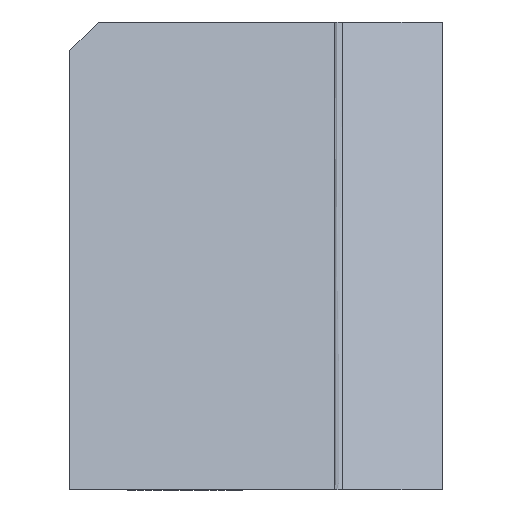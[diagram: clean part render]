
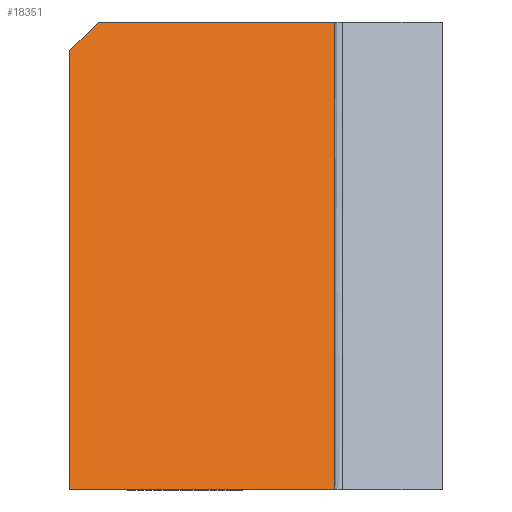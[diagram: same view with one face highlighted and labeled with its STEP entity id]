
A CAD part, left-side view. The second image highlights one B-rep face of the part: STEP entity #18351.
In plain terms, the highlighted planar face has unit normal (-0.943, 0, 0.334).
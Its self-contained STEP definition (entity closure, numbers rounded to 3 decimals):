
#1685=ORIENTED_EDGE('',*,*,#5631,.F.);
#1686=ORIENTED_EDGE('',*,*,#5632,.T.);
#1687=ORIENTED_EDGE('',*,*,#4766,.F.);
#1688=ORIENTED_EDGE('',*,*,#5633,.F.);
#1689=ORIENTED_EDGE('',*,*,#5268,.F.);
#4766=EDGE_CURVE('',#6739,#6740,#8030,.T.);
#5268=EDGE_CURVE('',#7240,#7242,#8371,.T.);
#5631=EDGE_CURVE('',#7604,#7240,#8614,.T.);
#5632=EDGE_CURVE('',#7604,#6740,#8615,.T.);
#5633=EDGE_CURVE('',#7242,#6739,#8616,.T.);
#6739=VERTEX_POINT('',#23909);
#6740=VERTEX_POINT('',#23910);
#7240=VERTEX_POINT('',#25427);
#7242=VERTEX_POINT('',#25430);
#7604=VERTEX_POINT('',#26156);
#8030=LINE('',#23908,#9565);
#8371=LINE('',#25429,#9906);
#8614=LINE('',#26155,#10149);
#8615=LINE('',#26157,#10150);
#8616=LINE('',#26158,#10151);
#9565=VECTOR('',#20031,1000.);
#9906=VECTOR('',#20634,1000.);
#10149=VECTOR('',#21119,1000.);
#10150=VECTOR('',#21120,1000.);
#10151=VECTOR('',#21121,1000.);
#11064=EDGE_LOOP('',(#1685,#1686,#1687,#1688,#1689));
#11911=FACE_BOUND('',#11064,.T.);
#12696=PLANE('',#19352);
#18351=ADVANCED_FACE('',(#11911),#12696,.T.);
#19352=AXIS2_PLACEMENT_3D('',#26154,#21117,#21118);
#20031=DIRECTION('',(0.,1.,0.));
#20634=DIRECTION('',(0.,-1.,0.));
#21117=DIRECTION('',(-0.942,0.,0.334));
#21118=DIRECTION('',(0.,1.,0.));
#21119=DIRECTION('',(0.243,-0.686,0.686));
#21120=DIRECTION('',(-0.334,0.,-0.942));
#21121=DIRECTION('',(-0.334,0.,-0.942));
#23908=CARTESIAN_POINT('',(-17.379,0.,-49.));
#23909=CARTESIAN_POINT('',(-17.379,-27.75,-49.));
#23910=CARTESIAN_POINT('',(-17.379,0.,-49.));
#25427=CARTESIAN_POINT('',(0.,-3.,0.));
#25429=CARTESIAN_POINT('',(0.,0.,0.));
#25430=CARTESIAN_POINT('',(0.,-27.75,0.));
#26154=CARTESIAN_POINT('',(0.,-27.75,0.));
#26155=CARTESIAN_POINT('',(1.938,-8.463,5.463));
#26156=CARTESIAN_POINT('',(-1.064,0.,-3.));
#26157=CARTESIAN_POINT('',(0.,0.,0.));
#26158=CARTESIAN_POINT('',(0.,-27.75,0.));
